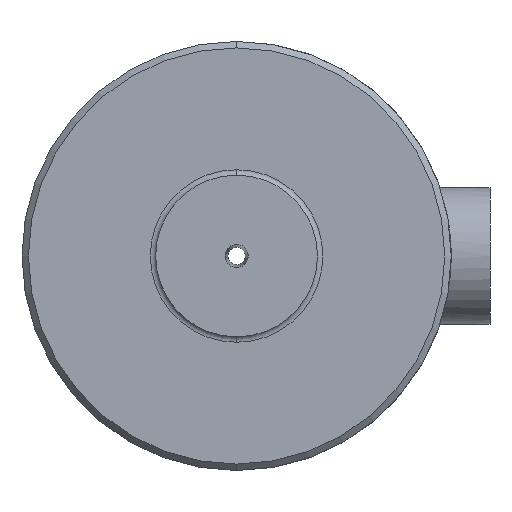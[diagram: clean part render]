
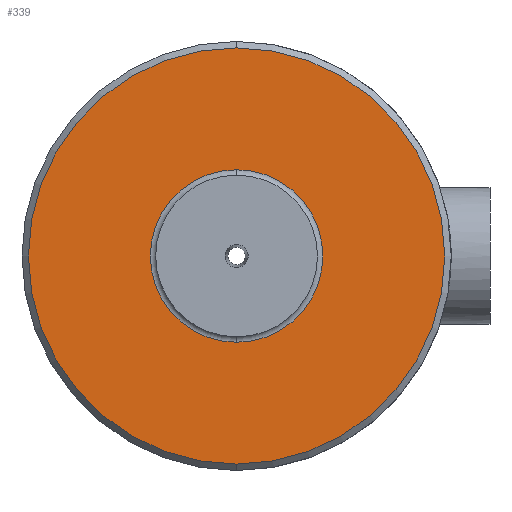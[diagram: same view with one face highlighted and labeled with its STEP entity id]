
A CAD part, front view. The second image highlights one B-rep face of the part: STEP entity #339.
In plain terms, the highlighted planar face has unit normal (0, -1, 0).
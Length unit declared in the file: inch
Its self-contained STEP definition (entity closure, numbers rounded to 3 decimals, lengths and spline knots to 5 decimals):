
#12 = CARTESIAN_POINT ( 'NONE',  ( 0., -1., -0.965 ) ) ;
#13 = CARTESIAN_POINT ( 'NONE',  ( 0., -1., 0.965 ) ) ;
#14 = DIRECTION ( 'NONE',  ( 0., 0., 1. ) ) ;
#59 = EDGE_CURVE ( 'NONE', #60, #61, #532, .T. ) ;
#60 = VERTEX_POINT ( 'NONE', #527 ) ;
#61 = VERTEX_POINT ( 'NONE', #526 ) ;
#147 = EDGE_CURVE ( 'NONE', #148, #149, #668, .T. ) ;
#148 = VERTEX_POINT ( 'NONE', #13 ) ;
#149 = VERTEX_POINT ( 'NONE', #12 ) ;
#337 = ORIENTED_EDGE ( 'NONE', *, *, #59, .T. ) ;
#338 = EDGE_LOOP ( 'NONE', ( #442, #458 ) ) ;
#339 = ADVANCED_FACE ( 'NONE', ( #1095, #1094 ), #1103, .T. ) ;
#441 = ORIENTED_EDGE ( 'NONE', *, *, #455, .T. ) ;
#442 = ORIENTED_EDGE ( 'NONE', *, *, #147, .F. ) ;
#455 = EDGE_CURVE ( 'NONE', #61, #60, #746, .T. ) ;
#457 = EDGE_LOOP ( 'NONE', ( #441, #337 ) ) ;
#458 = ORIENTED_EDGE ( 'NONE', *, *, #459, .F. ) ;
#459 = EDGE_CURVE ( 'NONE', #149, #148, #738, .T. ) ;
#526 = CARTESIAN_POINT ( 'NONE',  ( 0., -1., 0.4 ) ) ;
#527 = CARTESIAN_POINT ( 'NONE',  ( 0., -1., -0.4 ) ) ;
#528 = DIRECTION ( 'NONE',  ( 0., 0., 1. ) ) ;
#529 = DIRECTION ( 'NONE',  ( 0., 1., 0. ) ) ;
#530 = CARTESIAN_POINT ( 'NONE',  ( 0., -1., 0. ) ) ;
#531 = AXIS2_PLACEMENT_3D ( 'NONE', #530, #529, #528 ) ;
#532 = CIRCLE ( 'NONE', #531, 0.4 ) ;
#665 = DIRECTION ( 'NONE',  ( 0., 1., 0. ) ) ;
#666 = CARTESIAN_POINT ( 'NONE',  ( 0., -1., 0. ) ) ;
#667 = AXIS2_PLACEMENT_3D ( 'NONE', #666, #665, #14 ) ;
#668 = CIRCLE ( 'NONE', #667, 0.965 ) ;
#734 = DIRECTION ( 'NONE',  ( 0., 0., 1. ) ) ;
#735 = DIRECTION ( 'NONE',  ( 0., 1., 0. ) ) ;
#736 = CARTESIAN_POINT ( 'NONE',  ( 0., -1., 0. ) ) ;
#737 = AXIS2_PLACEMENT_3D ( 'NONE', #736, #735, #734 ) ;
#738 = CIRCLE ( 'NONE', #737, 0.965 ) ;
#739 = DIRECTION ( 'NONE',  ( 0., 0., 1. ) ) ;
#740 = DIRECTION ( 'NONE',  ( 0., 1., 0. ) ) ;
#741 = CARTESIAN_POINT ( 'NONE',  ( 0., -1., 0. ) ) ;
#742 = AXIS2_PLACEMENT_3D ( 'NONE', #741, #740, #739 ) ;
#746 = CIRCLE ( 'NONE', #742, 0.4 ) ;
#1088 = DIRECTION ( 'NONE',  ( 0., 0., -1. ) ) ;
#1089 = AXIS2_PLACEMENT_3D ( 'NONE', #1091, #1090, #1088 ) ;
#1090 = DIRECTION ( 'NONE',  ( 0., -1., 0. ) ) ;
#1091 = CARTESIAN_POINT ( 'NONE',  ( 0.965, -1., 0. ) ) ;
#1094 = FACE_OUTER_BOUND ( 'NONE', #338, .T. ) ;
#1095 = FACE_BOUND ( 'NONE', #457, .T. ) ;
#1103 = PLANE ( 'NONE',  #1089 ) ;
